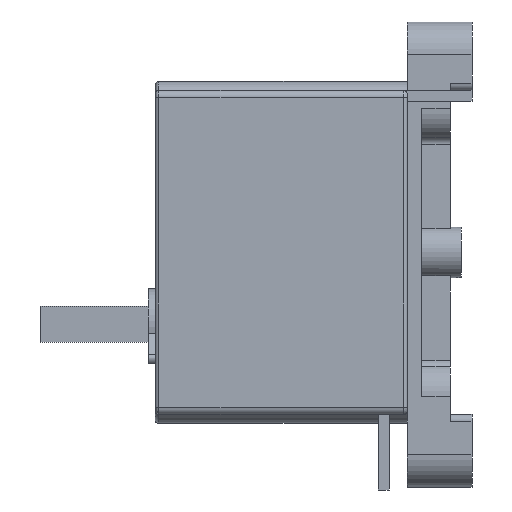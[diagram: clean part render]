
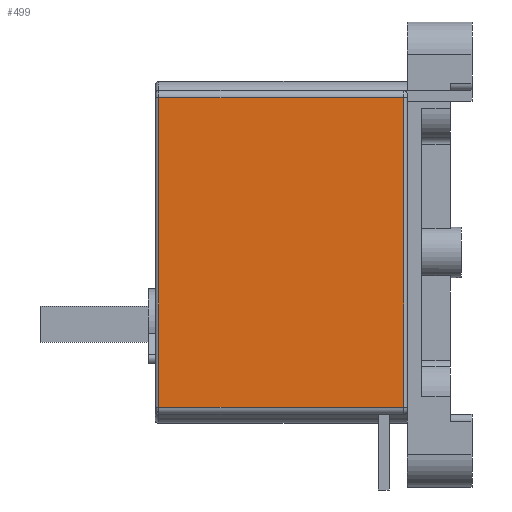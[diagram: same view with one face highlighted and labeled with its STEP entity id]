
A CAD part, left-side view. The second image highlights one B-rep face of the part: STEP entity #499.
In plain terms, the highlighted planar face has unit normal (-1, 0, 0).
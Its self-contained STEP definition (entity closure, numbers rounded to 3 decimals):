
#157=PLANE('',#4264);
#499=ADVANCED_FACE('',(#752),#157,.F.);
#752=FACE_OUTER_BOUND('',#1025,.T.);
#1025=EDGE_LOOP('',(#2140,#2141,#2142,#2143));
#2140=ORIENTED_EDGE('',*,*,#3197,.F.);
#2141=ORIENTED_EDGE('',*,*,#3183,.T.);
#2142=ORIENTED_EDGE('',*,*,#3198,.T.);
#2143=ORIENTED_EDGE('',*,*,#2877,.T.);
#2467=VERTEX_POINT('',#5835);
#2471=VERTEX_POINT('',#5844);
#2671=VERTEX_POINT('',#6569);
#2675=VERTEX_POINT('',#6601);
#2877=EDGE_CURVE('',#2467,#2471,#3362,.T.);
#3183=EDGE_CURVE('',#2671,#2675,#3522,.T.);
#3197=EDGE_CURVE('',#2671,#2471,#3529,.T.);
#3198=EDGE_CURVE('',#2675,#2467,#3530,.T.);
#3362=LINE('',#5845,#3694);
#3522=LINE('',#6602,#3854);
#3529=LINE('',#6654,#3861);
#3530=LINE('',#6656,#3862);
#3694=VECTOR('',#4672,1.);
#3854=VECTOR('',#5330,1.);
#3861=VECTOR('',#5355,1.);
#3862=VECTOR('',#5358,1.);
#4264=AXIS2_PLACEMENT_3D('',#6657,#5359,#5360);
#4672=DIRECTION('',(0.,0.,1.));
#5330=DIRECTION('',(0.,0.,-1.));
#5355=DIRECTION('',(0.,-1.,0.));
#5358=DIRECTION('',(0.,-1.,0.));
#5359=DIRECTION('',(1.,0.,0.));
#5360=DIRECTION('',(0.,0.,-1.));
#5835=CARTESIAN_POINT('',(-41.,1.,-43.));
#5844=CARTESIAN_POINT('',(-41.,1.,43.));
#5845=CARTESIAN_POINT('',(-41.,1.,-43.));
#6569=CARTESIAN_POINT('',(-41.,69.,43.));
#6601=CARTESIAN_POINT('',(-41.,69.,-43.));
#6602=CARTESIAN_POINT('',(-41.,69.,-43.));
#6654=CARTESIAN_POINT('',(-41.,35.,43.));
#6656=CARTESIAN_POINT('',(-41.,35.,-43.));
#6657=CARTESIAN_POINT('',(-41.,35.,-43.));
